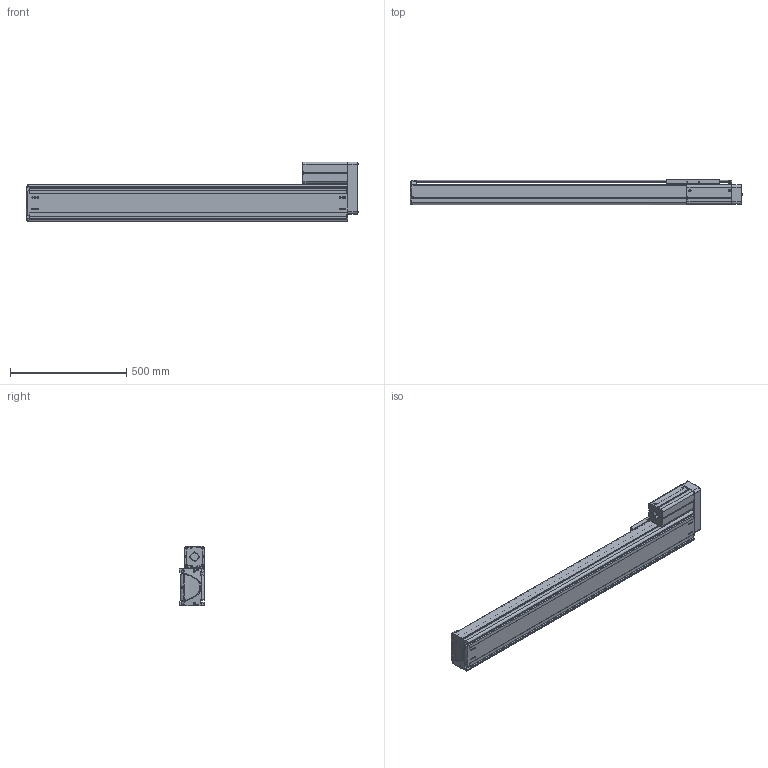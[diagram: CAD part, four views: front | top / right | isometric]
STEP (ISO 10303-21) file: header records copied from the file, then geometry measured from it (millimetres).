
FILE_DESCRIPTION((''),'2;1');
FILE_NAME('BE50F-UR-L_B-A5_IGS_PRT','2017-06-18T',(' '),(''),'PRO/ENGINEER BY PARAMETRIC TECHNOLOGY CORPORATION, 2015030','PRO/ENGINEER BY PARAMETRIC TECHNOLOGY CORPORATION, 2015030','');
FILE_SCHEMA(('CONFIG_CONTROL_DESIGN'));
Length unit declared in the file: millimetre
Products named in the file (1): BE50F-UR-L_B-A5_IGS_PRT
Bounding box: 1425.88 x 110 x 257 mm (x, y, z)
Volume: 5938520.9 mm3; surface area: 2433537.8 mm2
Topology: 6 solids, 144 shells, 2301 faces, 6328 edges, 4142 vertices
Faces by surface type: plane 1012, cylinder 1007, cone 143, torus 59, bspline 48, sphere 32
Entity records: 76808 total; most frequent: CARTESIAN_POINT 17707, DIRECTION 12331, ORIENTED_EDGE 12036, EDGE_CURVE 6278, AXIS2_PLACEMENT_3D 4417, VERTEX_POINT 4138, VECTOR 3497, LINE 3497
